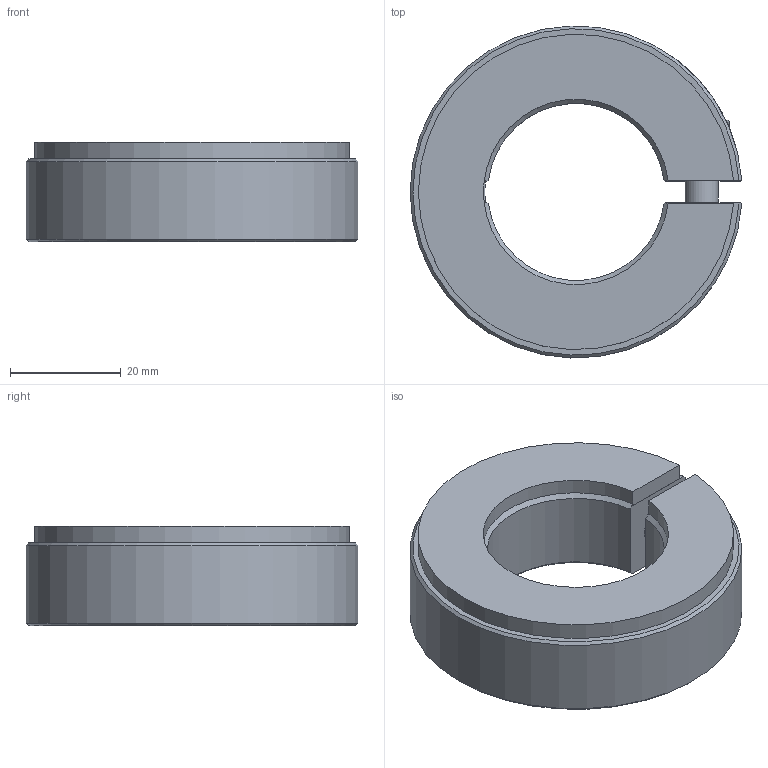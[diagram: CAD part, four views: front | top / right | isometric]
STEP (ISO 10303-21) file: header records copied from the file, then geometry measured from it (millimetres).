
FILE_DESCRIPTION( ( 'STEP AP203' ), '1' );
FILE_NAME( 'C:/Temp/Ganter_Step_05_03_2020/data/3_2/gn7062_3/Semi-split Stainless Steel-Set collar GN 7062.3-60-B32-NI.stp', '2020-03-13T05:40:26', ( 'License CC BY-ND 4.0' ), ( 'CADENAS' ), ' ', 'PARTsolutions', ' ' );
FILE_SCHEMA( ( 'CONFIG_CONTROL_DESIGN' ) );
Length unit declared in the file: millimetre
Products named in the file (1): _Semi-split Stainless Steel-Set collar GN 7062.3-60-B32-NI
Bounding box: 59.93 x 59.97 x 18 mm (x, y, z)
Volume: 33289.9 mm3; surface area: 10294.7 mm2
Topology: 1 solids, 1 shells, 36 faces, 89 edges, 59 vertices
Faces by surface type: plane 20, cylinder 10, cone 5, torus 1
Full cylindrical faces by diameter (mm): 6 x1, 6.4 x1, 10 x1, 10.5 x1
Entity records: 1188 total; most frequent: CARTESIAN_POINT 303, DIRECTION 170, ORIENTED_EDGE 168, EDGE_CURVE 84, AXIS2_PLACEMENT_3D 64, VERTEX_POINT 59, EDGE_LOOP 47, LINE 42
